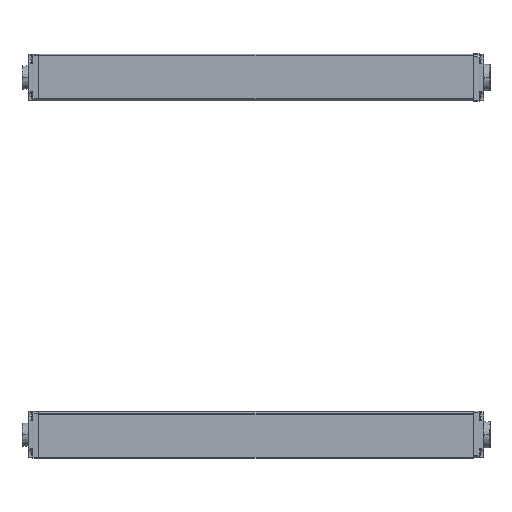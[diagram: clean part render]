
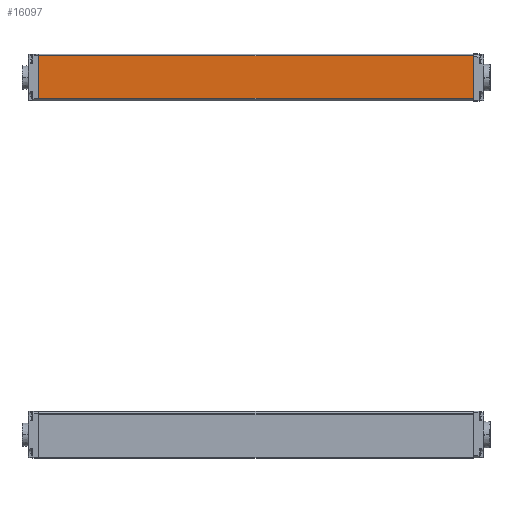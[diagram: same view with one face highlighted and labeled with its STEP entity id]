
A CAD part, left-side view. The second image highlights one B-rep face of the part: STEP entity #16097.
In plain terms, the highlighted planar face has unit normal (-1, 0, -0.009) as drawn and (-1, 0, 0) by its records, which use the part's own axes.
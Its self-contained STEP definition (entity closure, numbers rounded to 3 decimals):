
#343 = DIRECTION ( 'NONE',  ( 0., -1., 0. ) ) ;
#1538 = VECTOR ( 'NONE', #15389, 1000. ) ;
#1588 = ORIENTED_EDGE ( 'NONE', *, *, #17962, .F. ) ;
#1875 = EDGE_LOOP ( 'NONE', ( #1588, #10039, #6877, #10162 ) ) ;
#2569 = CARTESIAN_POINT ( 'NONE',  ( -15., 280., -16.9 ) ) ;
#2572 = EDGE_CURVE ( 'NONE', #14617, #10582, #16153, .T. ) ;
#3143 = EDGE_CURVE ( 'NONE', #15806, #10582, #4280, .T. ) ;
#3146 = VECTOR ( 'NONE', #9236, 1000. ) ;
#3687 = CARTESIAN_POINT ( 'NONE',  ( -15., 280., 10.9 ) ) ;
#3888 = CARTESIAN_POINT ( 'NONE',  ( -15., 0., -16.693 ) ) ;
#4280 = LINE ( 'NONE', #9821, #1538 ) ;
#4679 = CARTESIAN_POINT ( 'NONE',  ( -15., 280., 10.9 ) ) ;
#5645 = VECTOR ( 'NONE', #17467, 1000. ) ;
#5701 = CARTESIAN_POINT ( 'NONE',  ( -15., 0., 10.9 ) ) ;
#6357 = LINE ( 'NONE', #11912, #5645 ) ;
#6877 = ORIENTED_EDGE ( 'NONE', *, *, #3143, .T. ) ;
#7273 = LINE ( 'NONE', #12801, #11587 ) ;
#8121 = DIRECTION ( 'NONE',  ( 1., 0., 0. ) ) ;
#9236 = DIRECTION ( 'NONE',  ( 0., -1., 0. ) ) ;
#9356 = AXIS2_PLACEMENT_3D ( 'NONE', #2569, #8121, #13675 ) ;
#9384 = CARTESIAN_POINT ( 'NONE',  ( -15., 280., -16.693 ) ) ;
#9477 = FACE_OUTER_BOUND ( 'NONE', #1875, .T. ) ;
#9694 = VERTEX_POINT ( 'NONE', #9384 ) ;
#9821 = CARTESIAN_POINT ( 'NONE',  ( -15., 0., -16.9 ) ) ;
#10039 = ORIENTED_EDGE ( 'NONE', *, *, #10171, .T. ) ;
#10162 = ORIENTED_EDGE ( 'NONE', *, *, #2572, .F. ) ;
#10171 = EDGE_CURVE ( 'NONE', #9694, #15806, #7273, .T. ) ;
#10582 = VERTEX_POINT ( 'NONE', #5701 ) ;
#11587 = VECTOR ( 'NONE', #343, 1000. ) ;
#11912 = CARTESIAN_POINT ( 'NONE',  ( -15., 280., -16.9 ) ) ;
#12801 = CARTESIAN_POINT ( 'NONE',  ( -15., 280., -16.693 ) ) ;
#13675 = DIRECTION ( 'NONE',  ( 0., 0., -1. ) ) ;
#14617 = VERTEX_POINT ( 'NONE', #4679 ) ;
#15047 = PLANE ( 'NONE',  #9356 ) ;
#15389 = DIRECTION ( 'NONE',  ( 0., 0., 1. ) ) ;
#15806 = VERTEX_POINT ( 'NONE', #3888 ) ;
#16097 = ADVANCED_FACE ( 'NONE', ( #9477 ), #15047, .F. ) ;
#16153 = LINE ( 'NONE', #3687, #3146 ) ;
#17467 = DIRECTION ( 'NONE',  ( 0., 0., 1. ) ) ;
#17962 = EDGE_CURVE ( 'NONE', #9694, #14617, #6357, .T. ) ;
